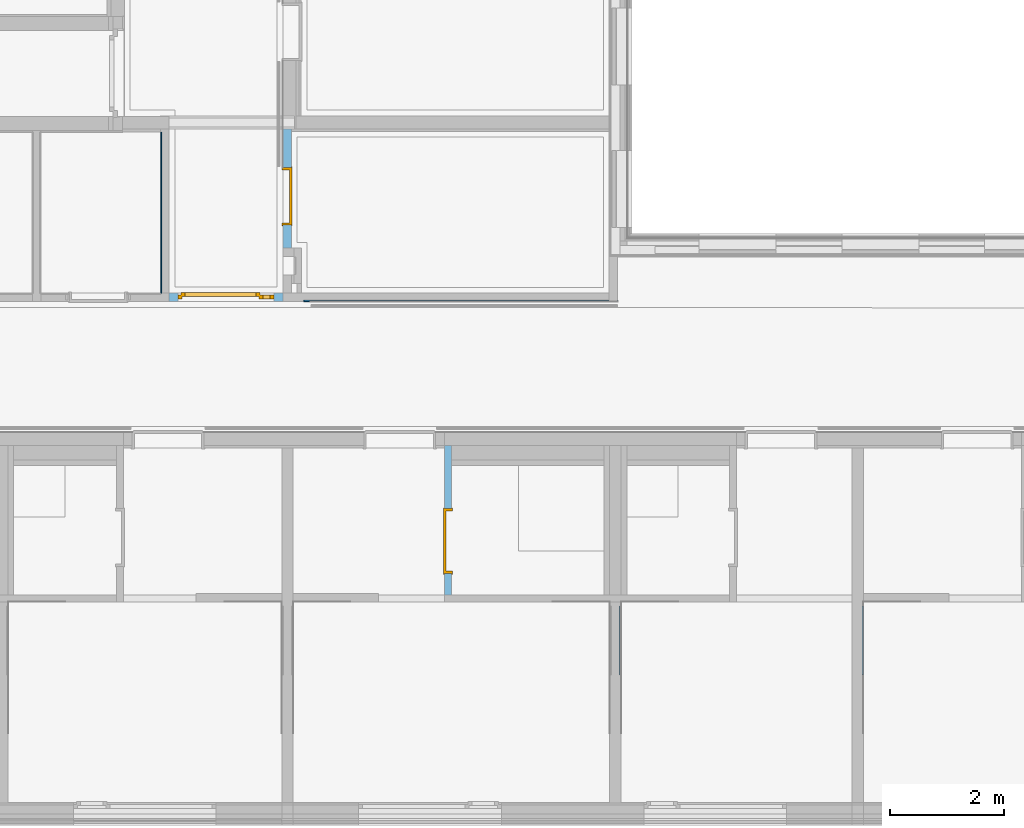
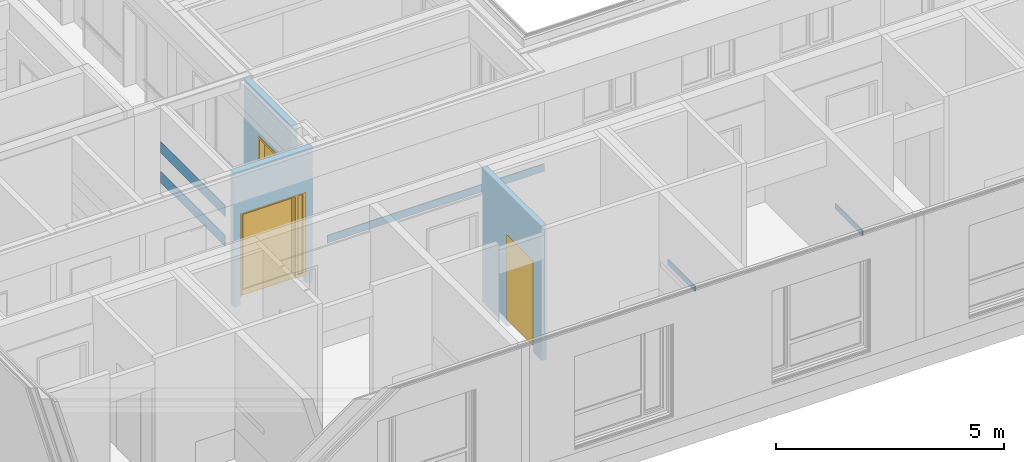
# One storey, part 70 of 207: 5 walls, 3 doors, 3 openings, plus 3 elements that do not belong to this part.
"""IFC4 building model written with IfcOpenShell, lengths in metres."""

from ifc_helpers import new_model, entity, si_unit, converted_unit, derived_unit, frame, frame_2d, origin, origin_with_axes, place, context, subcontext, project, spatial, polyline, rectangle, outline, extrude, closed_shell, open_shell, faceted_brep, surface_model, source, transform, mapped, material, type_object, element, fill, save


model = new_model("IFC4")

# Units and contexts
model_context = context("Model", 3, precision=1e-05, world=origin())
body_context = subcontext(model_context, "Body", "Model", "MODEL_VIEW")
ifc_project = project(units=[si_unit("LENGTHUNIT", "METRE"), si_unit("AREAUNIT", "SQUARE_METRE"), si_unit("VOLUMEUNIT", "CUBIC_METRE"), si_unit("MASSUNIT", "GRAM", prefix="KILO"), converted_unit("PLANEANGLEUNIT", "DEGREE", entity("IfcPlaneAngleMeasure", 0.0174532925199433), si_unit("PLANEANGLEUNIT", "RADIAN"), dimensions=[0, 0, 0, 0, 0, 0, 0]), derived_unit("THERMALTRANSMITTANCEUNIT", [(si_unit("POWERUNIT", "WATT"), 1), (si_unit("THERMODYNAMICTEMPERATUREUNIT", "KELVIN"), -1), (si_unit("LENGTHUNIT", "METRE"), -2)]), derived_unit("VOLUMETRICFLOWRATEUNIT", [(si_unit("LENGTHUNIT", "METRE"), 3), (converted_unit("TIMEUNIT", "hour", entity("IfcTimeMeasure", 3600.0), si_unit("TIMEUNIT", "SECOND"), dimensions=[0, 0, 1, 0, 0, 0, 0]), -1), (si_unit("LENGTHUNIT", "METRE"), -1)])], contexts=[model_context])

# Site, building, storey
site_placement = place(None, origin())
site = spatial("IfcSite", under=ifc_project, at=site_placement, Name="Psychiatrie Neubau Wunstorf", CompositionType="ELEMENT")
building_placement = place(site_placement, origin())
building = spatial("IfcBuilding", under=site, at=building_placement, Name="Neubau H2 Stationsgebäude", CompositionType="ELEMENT")
storey_placement = place(building_placement, frame((0.0, 0.0, -0.2)))
storey = spatial("IfcBuildingStorey", under=building, at=storey_placement, Name="H2 Ebene 0", CompositionType="ELEMENT", Elevation=-0.2)

# Walls
for number, where, name in (
    (1, (20.075, 0.0854496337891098, 1.625), "WV 1.1"),
    (2, (15.825, 0.0854496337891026, 1.625), "WV 1.1"),
):
    element("IfcWall", number, at=place(storey_placement, frame(where)), inside=storey, Name=name, context=body_context, shape_type="Brep", body=[
        faceted_brep([(0.025, 1.2, 0.0), (0.0, 1.2, 0.0), (0.0, 0.0, 0.0), (0.025, 0.0, 0.0), (0.0, 1.2, 0.15), (0.025, 1.2, 0.15), (0.025, 0.0, 0.15), (0.0, 0.0, 0.15)], [[[0, 1, 2, 3]], [[4, 5, 6, 7]], [[1, 0, 5, 4]], [[2, 1, 4, 7]], [[3, 2, 7, 6]], [[0, 3, 6, 5]]], orient=[[False], [False], [False], [False], [False], [False]]),
    ])
wall_1_placement = place(storey_placement, frame((10.289, 6.62499989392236, 0.9)))
element("IfcWall", 3, at=wall_1_placement, inside=storey, Name="WV 1.1", context=body_context, shape_type="Brep", body=[
    faceted_brep([(0.0, 0.025, 0.0), (0.0, 0.0, 0.0), (5.5, 0.0, 0.0), (5.5, 0.025, 0.0), (0.0, 0.0, 0.2), (0.0, 0.025, 0.2), (5.5, 0.025, 0.2), (5.5, 0.0, 0.2)], [[[0, 1, 2, 3]], [[4, 5, 6, 7]], [[1, 0, 5, 4]], [[2, 1, 4, 7]], [[3, 2, 7, 6]], [[0, 3, 6, 5]]], orient=[[False], [False], [False], [False], [False], [False]]),
])
for number, where, name in (
    (4, (7.775, 6.77500025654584, 1.6), "WV 1.1"),
    (5, (7.775, 6.77500025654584, 2.4), "WV 1.1"),
):
    element("IfcWall", number, at=place(storey_placement, frame(where)), inside=storey, Name=name, context=body_context, shape_type="Brep", body=[
        faceted_brep([(0.0, 0.0, 0.0), (0.018, 0.0, 0.0), (0.018, 2.82, 0.0), (0.0, 2.82, 0.0), (0.018, 0.0, 0.3), (0.0, 0.0, 0.3), (0.0, 2.82, 0.3), (0.018, 2.82, 0.3)], [[[0, 1, 2, 3]], [[4, 5, 6, 7]], [[1, 0, 5, 4]], [[2, 1, 4, 7]], [[3, 2, 7, 6]], [[0, 3, 6, 5]]], orient=[[False], [False], [False], [False], [False], [False]]),
    ])

# Wall, opening, door
ifc_material_1 = material(Name="WI-LB")
wall_2_placement = place(storey_placement, frame((12.875, 1.48374963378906, 0.0), z_axis=(0.0, 0.0, 1.0), x_axis=(0.0, 1.0, 0.0)))
wall_2 = element("IfcWall", 6, at=wall_2_placement, inside=storey, material=ifc_material_1, context=body_context, shape_type="SweptSolid", body=[
    extrude(rectangle(XDim=2.615, YDim=0.125, at=frame_2d((1.3075, 0.0625), x_axis=(1.0, 0.0))), origin_with_axes(), (0.0, 0.0, 1.0), 3.6),
])
opening_1_placement = place(wall_2_placement, frame((0.375, 0.0, 0.0), z_axis=(0.0, 1.0, 0.0), x_axis=(0.0, 0.0, 1.0)))
opening_1 = element("IfcOpeningElement", 7, at=opening_1_placement, cuts=wall_2, Name="Türöffnung", ObjectType="Opening", context=body_context, shape_type="SweptSolid", body=[
    extrude(outline(polyline([(2.46, 1.135), (2.46, 0.0), (0.0, 0.0), (0.0, 1.135), (2.46, 1.135)])), origin_with_axes(), (0.0, 0.0, 1.0), 0.125),
])
ifc_material_2 = material(Name="TI-1F-UZ-D-N")
door_type_1 = type_object("IfcDoorType", Name="SMT", OperationType="SINGLE_SWING_RIGHT", ParameterTakesPrecedence=False, PredefinedType="DOOR")
shared_shape_1 = source(origin_with_axes(), body_context, "Body", "Brep", [
    faceted_brep([(1.185, 0.0125000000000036, 0.0), (1.185, 0.112500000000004, 0.0), (1.135, 0.112500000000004, 0.0), (1.135, 0.0125000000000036, 0.0), (1.185, 0.112500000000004, 3.6), (1.185, 0.0125000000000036, 3.6), (1.135, 0.0125000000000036, 3.6), (1.135, 0.112500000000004, 3.6)], [[[0, 1, 2, 3]], [[4, 5, 6, 7]], [[1, 0, 5, 4]], [[2, 1, 4, 7]], [[3, 2, 7, 6]], [[0, 3, 6, 5]]], orient=[[False], [False], [False], [False], [False], [False]]),
    faceted_brep([(0.0, 0.0125000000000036, 0.0), (0.0, 0.112500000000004, 0.0), (-0.0500000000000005, 0.112500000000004, 0.0), (-0.0500000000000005, 0.0125000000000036, 0.0), (0.0, 0.112500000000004, 3.6), (0.0, 0.0125000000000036, 3.6), (-0.0500000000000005, 0.0125000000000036, 3.6), (-0.0500000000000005, 0.112500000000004, 3.6)], [[[0, 1, 2, 3]], [[4, 5, 6, 7]], [[1, 0, 5, 4]], [[2, 1, 4, 7]], [[3, 2, 7, 6]], [[0, 3, 6, 5]]], orient=[[False], [False], [False], [False], [False], [False]]),
    faceted_brep([(1.135, 0.0125000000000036, 2.46), (1.135, 0.112500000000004, 2.46), (0.0, 0.112500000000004, 2.46), (0.0, 0.0125000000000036, 2.46), (1.135, 0.112500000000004, 2.51), (1.135, 0.0125000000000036, 2.51), (0.0, 0.0125000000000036, 2.51), (0.0, 0.112500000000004, 2.51)], [[[0, 1, 2, 3]], [[4, 5, 6, 7]], [[1, 0, 5, 4]], [[2, 1, 4, 7]], [[3, 2, 7, 6]], [[0, 3, 6, 5]]], orient=[[False], [False], [False], [False], [False], [False]]),
])
shared_shape_2 = source(origin_with_axes(), body_context, "Body", "Brep", [
    faceted_brep([(1.135, -0.0149999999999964, 2.46), (1.135, -0.0149999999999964, 0.2), (1.095, -0.0149999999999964, 0.2), (1.095, -0.0149999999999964, 2.46), (1.135, 0.140000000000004, 0.2), (1.135, 0.140000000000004, 2.46), (1.095, 0.140000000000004, 2.46), (1.095, 0.140000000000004, 0.2)], [[[0, 1, 2, 3]], [[4, 5, 6, 7]], [[1, 0, 5, 4]], [[2, 1, 4, 7]], [[3, 2, 7, 6]], [[0, 3, 6, 5]]], orient=[[False], [False], [False], [False], [False], [False]]),
    faceted_brep([(1.135, -0.0149999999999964, 2.475), (1.15, -0.0149999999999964, 2.475), (1.15, -0.0149999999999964, 0.2), (1.135, -0.0149999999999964, 0.2), (1.135, 0.0, 0.2), (1.15, 0.0, 0.2), (1.15, 0.0, 2.475), (1.135, 0.0, 2.475)], [[[0, 1, 2, 3]], [[4, 5, 6, 7]], [[3, 4, 7, 0]], [[2, 5, 4, 3]], [[1, 6, 5, 2]], [[0, 7, 6, 1]]], orient=[[False], [False], [False], [False], [False], [False]]),
    faceted_brep([(1.135, 0.125000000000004, 2.475), (1.15, 0.125000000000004, 2.475), (1.15, 0.125000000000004, 0.2), (1.135, 0.125000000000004, 0.2), (1.135, 0.140000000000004, 0.2), (1.15, 0.140000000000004, 0.2), (1.15, 0.140000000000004, 2.475), (1.135, 0.140000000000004, 2.475)], [[[0, 1, 2, 3]], [[4, 5, 6, 7]], [[3, 4, 7, 0]], [[2, 5, 4, 3]], [[1, 6, 5, 2]], [[0, 7, 6, 1]]], orient=[[False], [False], [False], [False], [False], [False]]),
    faceted_brep([(0.0399999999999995, -0.0149999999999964, 2.46), (0.0399999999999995, -0.0149999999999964, 0.2), (0.0, -0.0149999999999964, 0.2), (0.0, -0.0149999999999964, 2.46), (0.0399999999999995, 0.140000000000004, 0.2), (0.0399999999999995, 0.140000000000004, 2.46), (0.0, 0.140000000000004, 2.46), (0.0, 0.140000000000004, 0.2)], [[[0, 1, 2, 3]], [[4, 5, 6, 7]], [[1, 0, 5, 4]], [[2, 1, 4, 7]], [[3, 2, 7, 6]], [[0, 3, 6, 5]]], orient=[[False], [False], [False], [False], [False], [False]]),
    faceted_brep([(0.0, -0.0149999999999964, 2.475), (0.0, -0.0149999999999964, 0.2), (-0.0150000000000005, -0.0149999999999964, 0.2), (-0.0150000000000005, -0.0149999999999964, 2.475), (0.0, 0.0, 0.2), (0.0, 0.0, 2.475), (-0.0150000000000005, 0.0, 2.475), (-0.0150000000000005, 0.0, 0.2)], [[[0, 1, 2, 3]], [[4, 5, 6, 7]], [[1, 0, 5, 4]], [[2, 1, 4, 7]], [[3, 2, 7, 6]], [[0, 3, 6, 5]]], orient=[[False], [False], [False], [False], [False], [False]]),
    faceted_brep([(0.0, 0.125000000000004, 2.475), (0.0, 0.125000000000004, 0.2), (-0.0150000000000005, 0.125000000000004, 0.2), (-0.0150000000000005, 0.125000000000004, 2.475), (0.0, 0.140000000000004, 0.2), (0.0, 0.140000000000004, 2.475), (-0.0150000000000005, 0.140000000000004, 2.475), (-0.0150000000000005, 0.140000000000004, 0.2)], [[[0, 1, 2, 3]], [[4, 5, 6, 7]], [[1, 0, 5, 4]], [[2, 1, 4, 7]], [[3, 2, 7, 6]], [[0, 3, 6, 5]]], orient=[[False], [False], [False], [False], [False], [False]]),
    faceted_brep([(1.095, -0.0149999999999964, 2.46), (1.095, -0.0149999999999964, 2.42), (0.0399999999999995, -0.0149999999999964, 2.42), (0.0399999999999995, -0.0149999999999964, 2.46), (1.095, 0.140000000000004, 2.42), (1.095, 0.140000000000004, 2.46), (0.0399999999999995, 0.140000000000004, 2.46), (0.0399999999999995, 0.140000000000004, 2.42)], [[[0, 1, 2, 3]], [[4, 5, 6, 7]], [[1, 0, 5, 4]], [[2, 1, 4, 7]], [[3, 2, 7, 6]], [[0, 3, 6, 5]]], orient=[[False], [False], [False], [False], [False], [False]]),
    faceted_brep([(1.135, -0.0149999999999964, 2.475), (1.135, -0.0149999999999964, 2.46), (0.0, -0.0149999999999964, 2.46), (0.0, -0.0149999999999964, 2.475), (1.135, 0.0, 2.46), (1.135, 0.0, 2.475), (0.0, 0.0, 2.475), (0.0, 0.0, 2.46)], [[[0, 1, 2, 3]], [[4, 5, 6, 7]], [[1, 0, 5, 4]], [[2, 1, 4, 7]], [[3, 2, 7, 6]], [[0, 3, 6, 5]]], orient=[[False], [False], [False], [False], [False], [False]]),
    faceted_brep([(1.135, 0.125000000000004, 2.475), (1.135, 0.125000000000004, 2.46), (0.0, 0.125000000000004, 2.46), (0.0, 0.125000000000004, 2.475), (1.135, 0.140000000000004, 2.46), (1.135, 0.140000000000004, 2.475), (0.0, 0.140000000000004, 2.475), (0.0, 0.140000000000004, 2.46)], [[[0, 1, 2, 3]], [[4, 5, 6, 7]], [[1, 0, 5, 4]], [[2, 1, 4, 7]], [[3, 2, 7, 6]], [[0, 3, 6, 5]]], orient=[[False], [False], [False], [False], [False], [False]]),
    faceted_brep([(1.11, 0.0910000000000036, 2.435), (1.11, 0.0910000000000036, 0.2), (0.0249999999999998, 0.0910000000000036, 0.2), (0.0249999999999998, 0.0910000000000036, 2.435), (1.11, 0.141000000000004, 0.2), (1.11, 0.141000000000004, 2.435), (0.0249999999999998, 0.141000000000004, 2.435), (0.0249999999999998, 0.141000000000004, 0.2)], [[[0, 1, 2, 3]], [[4, 5, 6, 7]], [[1, 0, 5, 4]], [[2, 1, 4, 7]], [[3, 2, 7, 6]], [[0, 3, 6, 5]]], orient=[[False], [False], [False], [False], [False], [False]]),
])
door_1_placement = place(opening_1_placement, frame((0.0, 0.0, 0.0), z_axis=(1.0, 0.0, 0.0), x_axis=(0.0, 1.0, 0.0)))
door_1 = element("IfcDoor", 8, at=door_1_placement, inside=storey, type_object=door_type_1, material=ifc_material_2, Name="SMT", OverallHeight=2.46, OverallWidth=1.135, context=body_context, shape_type="MappedRepresentation", body=[
    mapped(shared_shape_1, transform((0.0, 0.0, 0.0), x_axis=(1.0, 0.0, 0.0), y_axis=(0.0, 1.0, 0.0), z_axis=(0.0, 0.0, 1.0), scale=1.0)),
    mapped(shared_shape_2, transform((0.0, 0.0, 0.0), x_axis=(1.0, 0.0, 0.0), y_axis=(0.0, 1.0, 0.0), z_axis=(0.0, 0.0, 1.0), scale=1.0)),
])
fill(opening_1, door_1)

ifc_material_3 = material(Name="WI-LB")
wall_3_placement = place(storey_placement, frame((10.0675000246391, 7.56499989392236, 0.0), z_axis=(0.0, 0.0, 1.0), x_axis=(0.0, 1.0, 0.0)))
wall_3 = element("IfcWall", 9, at=wall_3_placement, inside=storey, material=ifc_material_3, context=body_context, shape_type="SweptSolid", body=[
    extrude(rectangle(XDim=2.085, YDim=0.15, at=frame_2d((1.0425, 0.075), x_axis=(1.0, 0.0))), origin_with_axes(), (0.0, 0.0, 1.0), 3.6),
])
opening_2_placement = place(wall_3_placement, frame((1.41, 0.15, 0.0), z_axis=(0.0, -1.0, 0.0), x_axis=(0.0, 0.0, 1.0)))
opening_2 = element("IfcOpeningElement", 10, at=opening_2_placement, cuts=wall_3, Name="Türöffnung", ObjectType="Opening", context=body_context, shape_type="SweptSolid", body=[
    extrude(outline(polyline([(2.46, 1.01), (2.46, 0.0), (0.0, 0.0), (0.0, 1.01), (2.46, 1.01)])), origin_with_axes(), (0.0, 0.0, 1.0), 0.15),
])
ifc_material_4 = material(Name="TI-1F-UZ-ZK")
door_type_2 = type_object("IfcDoorType", Name="SMT", OperationType="SINGLE_SWING_RIGHT", ParameterTakesPrecedence=False, PredefinedType="DOOR")
shared_shape_3 = source(origin_with_axes(), body_context, "Body", "Brep", [
    faceted_brep([(-0.0649999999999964, 0.0250000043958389, 0.0), (-0.0249999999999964, 0.0250000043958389, 0.0), (-0.0249999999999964, 0.124999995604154, 0.0), (-0.0649999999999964, 0.124999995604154, 0.0), (-0.0649999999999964, 0.124999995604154, 3.6), (-0.0249999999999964, 0.124999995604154, 3.6), (-0.0249999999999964, 0.0250000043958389, 3.6), (-0.0649999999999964, 0.0250000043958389, 3.6)], [[[0, 1, 2, 3]], [[4, 5, 6, 7]], [[3, 4, 7, 0]], [[2, 5, 4, 3]], [[1, 6, 5, 2]], [[0, 7, 6, 1]]], orient=[[False], [False], [False], [False], [False], [False]]),
    faceted_brep([(1.035, 0.0250000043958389, 0.0), (1.075, 0.0250000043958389, 0.0), (1.075, 0.124999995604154, 0.0), (1.035, 0.124999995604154, 0.0), (1.035, 0.124999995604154, 3.6), (1.075, 0.124999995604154, 3.6), (1.075, 0.0250000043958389, 3.6), (1.035, 0.0250000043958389, 3.6)], [[[0, 1, 2, 3]], [[4, 5, 6, 7]], [[3, 4, 7, 0]], [[2, 5, 4, 3]], [[1, 6, 5, 2]], [[0, 7, 6, 1]]], orient=[[False], [False], [False], [False], [False], [False]]),
    faceted_brep([(-0.0249999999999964, 0.0250000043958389, 2.485), (1.035, 0.0250000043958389, 2.485), (1.035, 0.124999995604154, 2.485), (-0.0249999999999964, 0.124999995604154, 2.485), (-0.0249999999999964, 0.124999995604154, 2.525), (1.035, 0.124999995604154, 2.525), (1.035, 0.0250000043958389, 2.525), (-0.0249999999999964, 0.0250000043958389, 2.525)], [[[0, 1, 2, 3]], [[4, 5, 6, 7]], [[3, 4, 7, 0]], [[2, 5, 4, 3]], [[1, 6, 5, 2]], [[0, 7, 6, 1]]], orient=[[False], [False], [False], [False], [False], [False]]),
])
shared_shape_4 = source(origin_with_axes(), body_context, "Body", "Brep", [
    faceted_brep([(0.0, -0.0150000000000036, 2.46), (0.0400000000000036, -0.0150000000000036, 2.46), (0.0400000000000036, -0.0150000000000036, 0.2), (0.0, -0.0150000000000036, 0.2), (0.0, 0.164999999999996, 0.2), (0.0400000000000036, 0.164999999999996, 0.2), (0.0400000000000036, 0.164999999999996, 2.46), (0.0, 0.164999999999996, 2.46)], [[[0, 1, 2, 3]], [[4, 5, 6, 7]], [[3, 4, 7, 0]], [[2, 5, 4, 3]], [[1, 6, 5, 2]], [[0, 7, 6, 1]]], orient=[[False], [False], [False], [False], [False], [False]]),
    faceted_brep([(0.0, -0.0150000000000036, 2.475), (0.0, -0.0150000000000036, 0.2), (-0.0149999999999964, -0.0150000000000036, 0.2), (-0.0149999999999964, -0.0150000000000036, 2.475), (0.0, 0.0, 0.2), (0.0, 0.0, 2.475), (-0.0149999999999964, 0.0, 2.475), (-0.0149999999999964, 0.0, 0.2)], [[[0, 1, 2, 3]], [[4, 5, 6, 7]], [[1, 0, 5, 4]], [[2, 1, 4, 7]], [[3, 2, 7, 6]], [[0, 3, 6, 5]]], orient=[[False], [False], [False], [False], [False], [False]]),
    faceted_brep([(0.0, 0.149999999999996, 2.475), (0.0, 0.149999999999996, 0.2), (-0.0149999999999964, 0.149999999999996, 0.2), (-0.0149999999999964, 0.149999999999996, 2.475), (0.0, 0.164999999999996, 0.2), (0.0, 0.164999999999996, 2.475), (-0.0149999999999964, 0.164999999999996, 2.475), (-0.0149999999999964, 0.164999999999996, 0.2)], [[[0, 1, 2, 3]], [[4, 5, 6, 7]], [[1, 0, 5, 4]], [[2, 1, 4, 7]], [[3, 2, 7, 6]], [[0, 3, 6, 5]]], orient=[[False], [False], [False], [False], [False], [False]]),
    faceted_brep([(0.970000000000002, -0.0150000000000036, 2.46), (1.01, -0.0150000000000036, 2.46), (1.01, -0.0150000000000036, 0.2), (0.970000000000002, -0.0150000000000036, 0.2), (0.970000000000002, 0.164999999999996, 0.2), (1.01, 0.164999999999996, 0.2), (1.01, 0.164999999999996, 2.46), (0.970000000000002, 0.164999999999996, 2.46)], [[[0, 1, 2, 3]], [[4, 5, 6, 7]], [[3, 4, 7, 0]], [[2, 5, 4, 3]], [[1, 6, 5, 2]], [[0, 7, 6, 1]]], orient=[[False], [False], [False], [False], [False], [False]]),
    faceted_brep([(1.01, -0.0150000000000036, 2.475), (1.025, -0.0150000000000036, 2.475), (1.025, -0.0150000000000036, 0.2), (1.01, -0.0150000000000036, 0.2), (1.01, 0.0, 0.2), (1.025, 0.0, 0.2), (1.025, 0.0, 2.475), (1.01, 0.0, 2.475)], [[[0, 1, 2, 3]], [[4, 5, 6, 7]], [[3, 4, 7, 0]], [[2, 5, 4, 3]], [[1, 6, 5, 2]], [[0, 7, 6, 1]]], orient=[[False], [False], [False], [False], [False], [False]]),
    faceted_brep([(1.01, 0.149999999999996, 2.475), (1.025, 0.149999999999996, 2.475), (1.025, 0.149999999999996, 0.2), (1.01, 0.149999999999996, 0.2), (1.01, 0.164999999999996, 0.2), (1.025, 0.164999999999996, 0.2), (1.025, 0.164999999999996, 2.475), (1.01, 0.164999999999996, 2.475)], [[[0, 1, 2, 3]], [[4, 5, 6, 7]], [[3, 4, 7, 0]], [[2, 5, 4, 3]], [[1, 6, 5, 2]], [[0, 7, 6, 1]]], orient=[[False], [False], [False], [False], [False], [False]]),
    faceted_brep([(0.0400000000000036, -0.0150000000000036, 2.46), (0.970000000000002, -0.0150000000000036, 2.46), (0.970000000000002, -0.0150000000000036, 2.42), (0.0400000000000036, -0.0150000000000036, 2.42), (0.0400000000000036, 0.164999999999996, 2.42), (0.970000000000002, 0.164999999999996, 2.42), (0.970000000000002, 0.164999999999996, 2.46), (0.0400000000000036, 0.164999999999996, 2.46)], [[[0, 1, 2, 3]], [[4, 5, 6, 7]], [[3, 4, 7, 0]], [[2, 5, 4, 3]], [[1, 6, 5, 2]], [[0, 7, 6, 1]]], orient=[[False], [False], [False], [False], [False], [False]]),
    faceted_brep([(0.0, -0.0150000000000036, 2.475), (1.01, -0.0150000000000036, 2.475), (1.01, -0.0150000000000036, 2.46), (0.0, -0.0150000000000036, 2.46), (0.0, 0.0, 2.46), (1.01, 0.0, 2.46), (1.01, 0.0, 2.475), (0.0, 0.0, 2.475)], [[[0, 1, 2, 3]], [[4, 5, 6, 7]], [[3, 4, 7, 0]], [[2, 5, 4, 3]], [[1, 6, 5, 2]], [[0, 7, 6, 1]]], orient=[[False], [False], [False], [False], [False], [False]]),
    faceted_brep([(0.0, 0.149999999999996, 2.475), (1.01, 0.149999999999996, 2.475), (1.01, 0.149999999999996, 2.46), (0.0, 0.149999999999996, 2.46), (0.0, 0.164999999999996, 2.46), (1.01, 0.164999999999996, 2.46), (1.01, 0.164999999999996, 2.475), (0.0, 0.164999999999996, 2.475)], [[[0, 1, 2, 3]], [[4, 5, 6, 7]], [[3, 4, 7, 0]], [[2, 5, 4, 3]], [[1, 6, 5, 2]], [[0, 7, 6, 1]]], orient=[[False], [False], [False], [False], [False], [False]]),
    faceted_brep([(0.0250000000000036, 0.115999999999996, 2.435), (0.985000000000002, 0.115999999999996, 2.435), (0.985000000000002, 0.115999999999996, 0.2), (0.0250000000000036, 0.115999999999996, 0.2), (0.0250000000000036, 0.165999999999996, 0.2), (0.985000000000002, 0.165999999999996, 0.2), (0.985000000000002, 0.165999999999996, 2.435), (0.0250000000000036, 0.165999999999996, 2.435)], [[[0, 1, 2, 3]], [[4, 5, 6, 7]], [[3, 4, 7, 0]], [[2, 5, 4, 3]], [[1, 6, 5, 2]], [[0, 7, 6, 1]]], orient=[[False], [False], [False], [False], [False], [False]]),
])
door_2_placement = place(opening_2_placement, frame((0.0, 0.0, 0.0), z_axis=(1.0, 0.0, 0.0), x_axis=(0.0, 1.0, 0.0)))
door_2 = element("IfcDoor", 11, at=door_2_placement, inside=storey, type_object=door_type_2, material=ifc_material_4, Name="SMT", OverallHeight=2.46, OverallWidth=1.01, context=body_context, shape_type="MappedRepresentation", body=[
    mapped(shared_shape_3, transform((0.0, 0.0, 0.0), x_axis=(1.0, 0.0, 0.0), y_axis=(0.0, 1.0, 0.0), z_axis=(0.0, 0.0, 1.0), scale=1.0)),
    mapped(shared_shape_4, transform((0.0, 0.0, 0.0), x_axis=(1.0, 0.0, 0.0), y_axis=(0.0, 1.0, 0.0), z_axis=(0.0, 0.0, 1.0), scale=1.0)),
])
fill(opening_2, door_2)

ifc_material_5 = material(Name="WI-LB")
wall_4_placement = place(storey_placement, frame((9.91750002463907, 6.77999989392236, 0.0), z_axis=(0.0, 0.0, 1.0), x_axis=(-1.0, 0.0, 0.0)))
wall_4 = element("IfcWall", 12, at=wall_4_placement, inside=storey, material=ifc_material_5, context=body_context, shape_type="SweptSolid", body=[
    extrude(rectangle(XDim=1.99250002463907, YDim=0.155, at=frame_2d((0.996250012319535, 0.0775), x_axis=(1.0, 0.0))), origin_with_axes(), (0.0, 0.0, 1.0), 3.6),
])
opening_3_placement = place(wall_4_placement, frame((0.155000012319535, 0.0, 0.0), z_axis=(0.0, 1.0, 0.0), x_axis=(0.0, 0.0, 1.0)))
opening_3 = element("IfcOpeningElement", 13, at=opening_3_placement, cuts=wall_4, Name="Türöffnung", ObjectType="Opening", context=body_context, shape_type="SweptSolid", body=[
    extrude(outline(polyline([(2.46, 1.6825), (2.46, 0.0), (0.0, 0.0), (0.0, 1.6825), (2.46, 1.6825)])), origin_with_axes(), (0.0, 0.0, 1.0), 0.155),
])
ifc_material_6 = material(Name="TI-2F-AG-D-O")
shared_shape_5 = source(origin_with_axes(), body_context, "Body", "Brep", [
    faceted_brep([(-0.1275, 0.0855, 0.0), (-0.1275, -0.0145, 0.0), (-0.0275, -0.0145, 0.0), (-0.0275, 0.0855, 0.0), (-0.1275, -0.0145, 3.6), (-0.1275, 0.0855, 3.6), (-0.0275, 0.0855, 3.6), (-0.0275, -0.0145, 3.6)], [[[0, 1, 2, 3]], [[4, 5, 6, 7]], [[1, 0, 5, 4]], [[2, 1, 4, 7]], [[3, 2, 7, 6]], [[0, 3, 6, 5]]], orient=[[False], [False], [False], [False], [False], [False]]),
    faceted_brep([(1.71, 0.0855, 0.0), (1.71, -0.0145, 0.0), (1.81, -0.0145, 0.0), (1.81, 0.0855, 0.0), (1.71, -0.0145, 3.6), (1.71, 0.0855, 3.6), (1.81, 0.0855, 3.6), (1.81, -0.0145, 3.6)], [[[0, 1, 2, 3]], [[4, 5, 6, 7]], [[1, 0, 5, 4]], [[2, 1, 4, 7]], [[3, 2, 7, 6]], [[0, 3, 6, 5]]], orient=[[False], [False], [False], [False], [False], [False]]),
    faceted_brep([(-0.0275, 0.0855, 2.4875), (-0.0275, -0.0145, 2.4875), (1.71, -0.0145, 2.4875), (1.71, 0.0855, 2.4875), (-0.0275, -0.0145, 2.5875), (-0.0275, 0.0855, 2.5875), (1.71, 0.0855, 2.5875), (1.71, -0.0145, 2.5875)], [[[0, 1, 2, 3]], [[4, 5, 6, 7]], [[1, 0, 5, 4]], [[2, 1, 4, 7]], [[3, 2, 7, 6]], [[0, 3, 6, 5]]], orient=[[False], [False], [False], [False], [False], [False]]),
])
shared_shape_6 = source(origin_with_axes(), body_context, "Body", "SurfaceModel", [
    surface_model("IfcShellBasedSurfaceModel", [(0.0, 0.0005, 2.46), (0.07, 0.0005, 2.46), (0.07, 0.0005, 0.2), (0.0, 0.0005, 0.2), (0.0, 0.0705, 0.2), (0.07, 0.0705, 0.2), (0.07, 0.0705, 2.46), (0.0, 0.0705, 2.46)], [closed_shell([[[0, 1, 2, 3]], [[4, 5, 6, 7]], [[3, 4, 7, 0]], [[2, 5, 4, 3]], [[1, 6, 5, 2]], [[0, 7, 6, 1]]], orient=[[False], [False], [False], [False], [False], [False]])]),
    surface_model("IfcShellBasedSurfaceModel", [(1.6125, 0.00049999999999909, 2.46), (1.6825, 0.00049999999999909, 2.46), (1.6825, 0.0005, 0.2), (1.6125, 0.0005, 0.2), (1.6125, 0.0705, 0.2), (1.6825, 0.0705, 0.2), (1.6825, 0.0704999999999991, 2.46), (1.6125, 0.0704999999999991, 2.46)], [closed_shell([[[0, 1, 2, 3]], [[4, 5, 6, 7]], [[3, 4, 7, 0]], [[2, 5, 4, 3]], [[1, 6, 5, 2]], [[0, 7, 6, 1]]], orient=[[False], [False], [False], [False], [False], [False]])]),
    surface_model("IfcShellBasedSurfaceModel", [(0.07, 0.0005, 2.46), (1.6125, 0.00049999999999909, 2.46), (1.6125, 0.00049999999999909, 2.39), (0.07, 0.0005, 2.39), (0.07, 0.0705, 2.39), (1.6125, 0.0704999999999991, 2.39), (1.6125, 0.0704999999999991, 2.46), (0.07, 0.0705, 2.46)], [closed_shell([[[0, 1, 2, 3]], [[4, 5, 6, 7]], [[3, 4, 7, 0]], [[2, 5, 4, 3]], [[1, 6, 5, 2]], [[0, 7, 6, 1]]], orient=[[False], [False], [False], [False], [False], [False]])]),
    surface_model("IfcShellBasedSurfaceModel", [(1.42, 0.00049999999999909, 2.39), (1.49, 0.00049999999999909, 2.39), (1.49, 0.0005, 0.2), (1.42, 0.0005, 0.2), (1.42, 0.0705, 0.2), (1.49, 0.0705, 0.2), (1.49, 0.0704999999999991, 2.39), (1.42, 0.0704999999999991, 2.39)], [closed_shell([[[0, 1, 2, 3]], [[4, 5, 6, 7]], [[3, 4, 7, 0]], [[2, 5, 4, 3]], [[1, 6, 5, 2]], [[0, 7, 6, 1]]], orient=[[False], [False], [False], [False], [False], [False]])]),
    surface_model("IfcShellBasedSurfaceModel", [(0.05, 0.0505, 2.41), (0.119999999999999, 0.0505, 2.41), (0.119999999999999, 0.0505, 0.18), (0.05, 0.0505, 0.18), (0.05, 0.1205, 0.18), (0.119999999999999, 0.1205, 0.18), (0.119999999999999, 0.1205, 2.41), (0.05, 0.1205, 2.41)], [closed_shell([[[0, 1, 2, 3]], [[4, 5, 6, 7]], [[3, 4, 7, 0]], [[2, 5, 4, 3]], [[1, 6, 5, 2]], [[0, 7, 6, 1]]], orient=[[False], [False], [False], [False], [False], [False]])]),
    surface_model("IfcShellBasedSurfaceModel", [(1.37, 0.0504999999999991, 2.41), (1.44, 0.0504999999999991, 2.41), (1.44, 0.0505, 0.18), (1.37, 0.0505, 0.18), (1.37, 0.1205, 0.18), (1.44, 0.1205, 0.18), (1.44, 0.120499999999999, 2.41), (1.37, 0.120499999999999, 2.41)], [closed_shell([[[0, 1, 2, 3]], [[4, 5, 6, 7]], [[3, 4, 7, 0]], [[2, 5, 4, 3]], [[1, 6, 5, 2]], [[0, 7, 6, 1]]], orient=[[False], [False], [False], [False], [False], [False]])]),
    surface_model("IfcShellBasedSurfaceModel", [(0.119999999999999, 0.0505, 0.33), (1.37, 0.0505, 0.33), (1.37, 0.0505, 0.18), (0.119999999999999, 0.0505, 0.18), (0.119999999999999, 0.1205, 0.18), (1.37, 0.1205, 0.18), (1.37, 0.1205, 0.33), (0.119999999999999, 0.1205, 0.33)], [closed_shell([[[0, 1, 2, 3]], [[4, 5, 6, 7]], [[3, 4, 7, 0]], [[2, 5, 4, 3]], [[1, 6, 5, 2]], [[0, 7, 6, 1]]], orient=[[False], [False], [False], [False], [False], [False]])]),
    surface_model("IfcShellBasedSurfaceModel", [(0.119999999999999, 0.0505, 2.41), (1.37, 0.0504999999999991, 2.41), (1.37, 0.0504999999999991, 2.34), (0.119999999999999, 0.0505, 2.34), (0.119999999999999, 0.1205, 2.34), (1.37, 0.120499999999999, 2.34), (1.37, 0.120499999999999, 2.41), (0.119999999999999, 0.1205, 2.41)], [closed_shell([[[0, 1, 2, 3]], [[4, 5, 6, 7]], [[3, 4, 7, 0]], [[2, 5, 4, 3]], [[1, 6, 5, 2]], [[0, 7, 6, 1]]], orient=[[False], [False], [False], [False], [False], [False]])]),
    surface_model("IfcShellBasedSurfaceModel", [(1.49, 0.0005, 0.27), (1.6125, 0.0005, 0.27), (1.6125, 0.0005, 0.2), (1.49, 0.0005, 0.2), (1.49, 0.0705, 0.2), (1.6125, 0.0705, 0.2), (1.6125, 0.0705, 0.27), (1.49, 0.0705, 0.27)], [closed_shell([[[0, 1, 2, 3]], [[4, 5, 6, 7]], [[3, 4, 7, 0]], [[2, 5, 4, 3]], [[1, 6, 5, 2]], [[0, 7, 6, 1]]], orient=[[False], [False], [False], [False], [False], [False]])]),
    surface_model("IfcShellBasedSurfaceModel", [(0.119999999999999, 0.0855, 0.33), (0.119999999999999, 0.0855, 2.34), (1.37, 0.0854999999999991, 2.34), (1.37, 0.0855, 0.33)], [open_shell([[[0, 1, 2, 3]]], orient=[[False]])]),
    surface_model("IfcShellBasedSurfaceModel", [(1.49, 0.0355, 0.27), (1.49, 0.0354999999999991, 2.39), (1.6125, 0.0354999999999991, 2.39), (1.6125, 0.0355, 0.27)], [open_shell([[[0, 1, 2, 3]]], orient=[[False]])]),
])
door_3_placement = place(opening_3_placement, frame((0.0, 1.6825, 0.113), z_axis=(1.0, 0.0, 0.0), x_axis=(0.0, -1.0, 0.0)))
door_3 = element("IfcDoor", 14, at=door_3_placement, inside=storey, material=ifc_material_6, Name="SMT", OperationType="USERDEFINED", OverallHeight=2.46, OverallWidth=1.6825, PredefinedType="DOOR", context=body_context, shape_type="MappedRepresentation", body=[
    mapped(shared_shape_5, transform((0.0, 0.0, 0.0), x_axis=(1.0, 0.0, 0.0), y_axis=(0.0, 1.0, 0.0), z_axis=(0.0, 0.0, 1.0), scale=1.0)),
    mapped(shared_shape_6, transform((0.0, 0.0, 0.0), x_axis=(1.0, 0.0, 0.0), y_axis=(0.0, 1.0, 0.0), z_axis=(0.0, 0.0, 1.0), scale=1.0)),
])
fill(opening_3, door_3)

save(model, "model.ifc")
